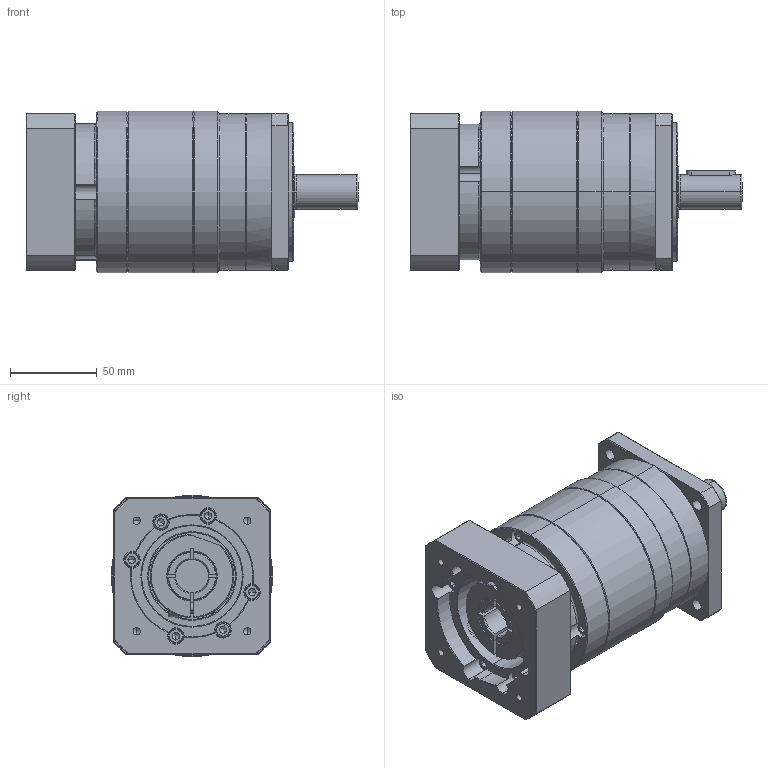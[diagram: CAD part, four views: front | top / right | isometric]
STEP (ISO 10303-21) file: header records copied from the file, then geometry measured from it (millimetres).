
FILE_DESCRIPTION (( 'STEP AP214' ), '1' );
FILE_NAME ('FB090-L2-S2-P2 19-70-90-M5.STEP', '2024-02-03T00:57:05', ( '微软用户' ), ( '微软中国' ), 'SwSTEP 2.0', 'SolidWorks 2018', '' );
FILE_SCHEMA (( 'AUTOMOTIVE_DESIGN' ));
Length unit declared in the file: millimetre
Products named in the file (14): hex socket set screws with flat point gb_GB_FASTENER_SCREWS_HSFP M12X12-N; 萇儂楊擘FB090 D70-M6-90F90H28.5; hexagon socket head cap screws gb_GB_FASTENER_SCREWS_HSHCS M6X20-N; 输入轴FB090D19外形图; hexagon socket head cap screws gb_GB_FASTENER_SCREWS_HSHCS M4X35-N; hexagon socket head cap screws gb_GB_FASTENER_SCREWS_HSHCS M4X25-N; hexagon socket head cap screws gb_GB_FASTENER_SCREWS_HSHCS M5X20-N; FB090二级齿圈; spring lock washers--normal type gb_GB_FASTENER_WASHER_SW 4; FB090-L2-S2-P2 19-70-90-M5; 笢潔楊擘俋倛芞 FB090; 標杶FB090 D24; FB090 一级齿圈加出轴20; spring lock washers--normal type gb_GB_FASTENER_WASHER_SW 5
Assembly tree (45 placements, depth 2):
  FB090-L2-S2-P2 19-70-90-M5
    FB090 一级齿圈加出轴20
    萇儂楊擘FB090 D70-M6-90F90H28.5
    笢潔楊擘俋倛芞 FB090
    输入轴FB090D19外形图
    標杶FB090 D24
    hexagon socket head cap screws gb_GB_FASTENER_SCREWS_HSHCS M5X20-N  x6
    spring lock washers--normal type gb_GB_FASTENER_WASHER_SW 5  x6
    spring lock washers--normal type gb_GB_FASTENER_WASHER_SW 4  x5
    hexagon socket head cap screws gb_GB_FASTENER_SCREWS_HSHCS M4X35-N  x12
    hexagon socket head cap screws gb_GB_FASTENER_SCREWS_HSHCS M4X25-N  x8
    hex socket set screws with flat point gb_GB_FASTENER_SCREWS_HSFP M12X12-N
    hexagon socket head cap screws gb_GB_FASTENER_SCREWS_HSHCS M6X20-N
    FB090二级齿圈
Bounding box: 191 x 93 x 93 mm (x, y, z)
Volume: 810454.3 mm3; surface area: 153282.8 mm2
Topology: 45 solids, 45 shells, 1307 faces, 3108 edges, 1907 vertices
Faces by surface type: plane 596, cylinder 410, cone 236, torus 65
Entity records: 27592 total; most frequent: CARTESIAN_POINT 4180, DIRECTION 3593, ORIENTED_EDGE 3144, EDGE_CURVE 1572, AXIS2_PLACEMENT_3D 1456, VERTEX_POINT 1004, CIRCLE 766, EDGE_LOOP 738
